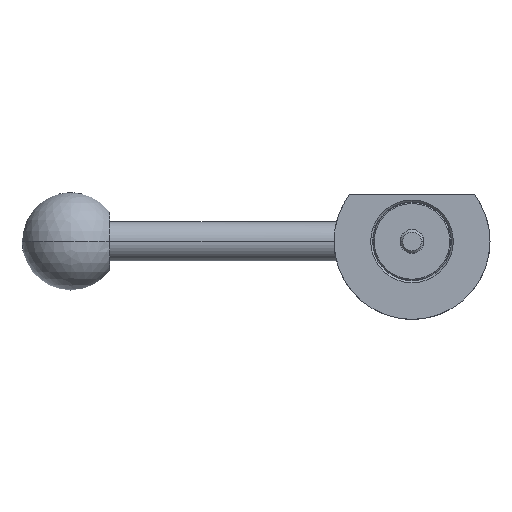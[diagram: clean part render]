
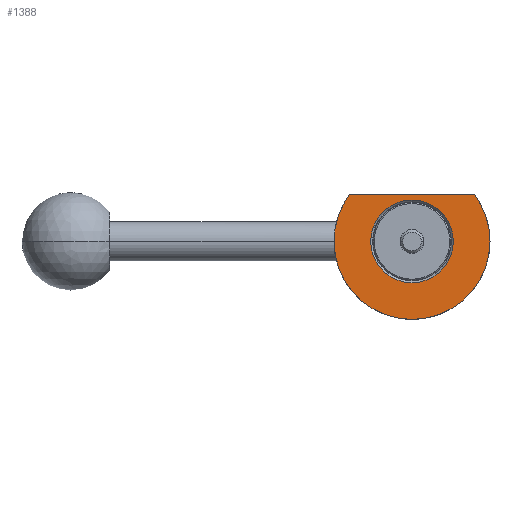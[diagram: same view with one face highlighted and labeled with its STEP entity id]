
A CAD part, front view. The second image highlights one B-rep face of the part: STEP entity #1388.
In plain terms, the highlighted planar face has unit normal (0, -1, 0).
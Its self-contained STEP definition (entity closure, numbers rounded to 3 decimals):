
#7 = DIRECTION ( 'NONE',  ( -1., 0., 0. ) ) ;
#25 = DIRECTION ( 'NONE',  ( 0., 1., 0. ) ) ;
#113 = ORIENTED_EDGE ( 'NONE', *, *, #877, .F. ) ;
#117 = DIRECTION ( 'NONE',  ( -1., 0., 0. ) ) ;
#240 = DIRECTION ( 'NONE',  ( 0., 1., 0. ) ) ;
#246 = PLANE ( 'NONE',  #801 ) ;
#360 = CIRCLE ( 'NONE', #392, 20. ) ;
#370 = CARTESIAN_POINT ( 'NONE',  ( 20., -10., 0. ) ) ;
#392 = AXIS2_PLACEMENT_3D ( 'NONE', #1612, #1767, #664 ) ;
#406 = DIRECTION ( 'NONE',  ( 0., -1., 0. ) ) ;
#424 = CIRCLE ( 'NONE', #1846, 10.6 ) ;
#429 = CARTESIAN_POINT ( 'NONE',  ( 10.6, -10., 0. ) ) ;
#458 = DIRECTION ( 'NONE',  ( 0., 1., 0. ) ) ;
#496 = FACE_OUTER_BOUND ( 'NONE', #1415, .T. ) ;
#499 = DIRECTION ( 'NONE',  ( -1., 0., 0. ) ) ;
#513 = AXIS2_PLACEMENT_3D ( 'NONE', #1172, #1021, #1812 ) ;
#530 = CARTESIAN_POINT ( 'NONE',  ( 0., -10., 0. ) ) ;
#561 = ORIENTED_EDGE ( 'NONE', *, *, #1216, .T. ) ;
#581 = EDGE_CURVE ( 'NONE', #1007, #776, #424, .T. ) ;
#622 = FACE_BOUND ( 'NONE', #1588, .T. ) ;
#644 = VECTOR ( 'NONE', #829, 1000. ) ;
#664 = DIRECTION ( 'NONE',  ( -1., 0., 0. ) ) ;
#761 = CARTESIAN_POINT ( 'NONE',  ( 0., -10., 0. ) ) ;
#776 = VERTEX_POINT ( 'NONE', #825 ) ;
#785 = CARTESIAN_POINT ( 'NONE',  ( -16.001, -10., 11.999 ) ) ;
#794 = ORIENTED_EDGE ( 'NONE', *, *, #1800, .F. ) ;
#801 = AXIS2_PLACEMENT_3D ( 'NONE', #839, #406, #1624 ) ;
#814 = ORIENTED_EDGE ( 'NONE', *, *, #1352, .F. ) ;
#825 = CARTESIAN_POINT ( 'NONE',  ( -10.6, -10., 0. ) ) ;
#829 = DIRECTION ( 'NONE',  ( -1., 0., 0. ) ) ;
#830 = CIRCLE ( 'NONE', #1074, 20. ) ;
#839 = CARTESIAN_POINT ( 'NONE',  ( -10.6, -10., 0. ) ) ;
#876 = AXIS2_PLACEMENT_3D ( 'NONE', #1580, #25, #7 ) ;
#877 = EDGE_CURVE ( 'NONE', #1520, #1682, #360, .T. ) ;
#1007 = VERTEX_POINT ( 'NONE', #429 ) ;
#1021 = DIRECTION ( 'NONE',  ( 0., 1., 0. ) ) ;
#1074 = AXIS2_PLACEMENT_3D ( 'NONE', #530, #240, #499 ) ;
#1076 = CARTESIAN_POINT ( 'NONE',  ( 16.001, -10., 11.999 ) ) ;
#1172 = CARTESIAN_POINT ( 'NONE',  ( 0., -10., 0. ) ) ;
#1216 = EDGE_CURVE ( 'NONE', #1486, #1652, #1826, .T. ) ;
#1352 = EDGE_CURVE ( 'NONE', #1682, #1652, #1769, .T. ) ;
#1388 = ADVANCED_FACE ( 'NONE', ( #622, #496 ), #246, .T. ) ;
#1415 = EDGE_LOOP ( 'NONE', ( #794, #561, #814, #113 ) ) ;
#1445 = EDGE_CURVE ( 'NONE', #776, #1007, #1874, .T. ) ;
#1486 = VERTEX_POINT ( 'NONE', #1076 ) ;
#1503 = CARTESIAN_POINT ( 'NONE',  ( -10.6, -10., 11.999 ) ) ;
#1520 = VERTEX_POINT ( 'NONE', #370 ) ;
#1580 = CARTESIAN_POINT ( 'NONE',  ( 0., -10., 0. ) ) ;
#1588 = EDGE_LOOP ( 'NONE', ( #1975, #1917 ) ) ;
#1612 = CARTESIAN_POINT ( 'NONE',  ( 0., -10., 0. ) ) ;
#1624 = DIRECTION ( 'NONE',  ( 1., 0., 0. ) ) ;
#1652 = VERTEX_POINT ( 'NONE', #785 ) ;
#1682 = VERTEX_POINT ( 'NONE', #1712 ) ;
#1712 = CARTESIAN_POINT ( 'NONE',  ( -20., -10., 0. ) ) ;
#1767 = DIRECTION ( 'NONE',  ( 0., 1., 0. ) ) ;
#1769 = CIRCLE ( 'NONE', #876, 20. ) ;
#1800 = EDGE_CURVE ( 'NONE', #1486, #1520, #830, .T. ) ;
#1812 = DIRECTION ( 'NONE',  ( -1., 0., 0. ) ) ;
#1826 = LINE ( 'NONE', #1503, #644 ) ;
#1846 = AXIS2_PLACEMENT_3D ( 'NONE', #761, #458, #117 ) ;
#1874 = CIRCLE ( 'NONE', #513, 10.6 ) ;
#1917 = ORIENTED_EDGE ( 'NONE', *, *, #1445, .T. ) ;
#1975 = ORIENTED_EDGE ( 'NONE', *, *, #581, .T. ) ;
